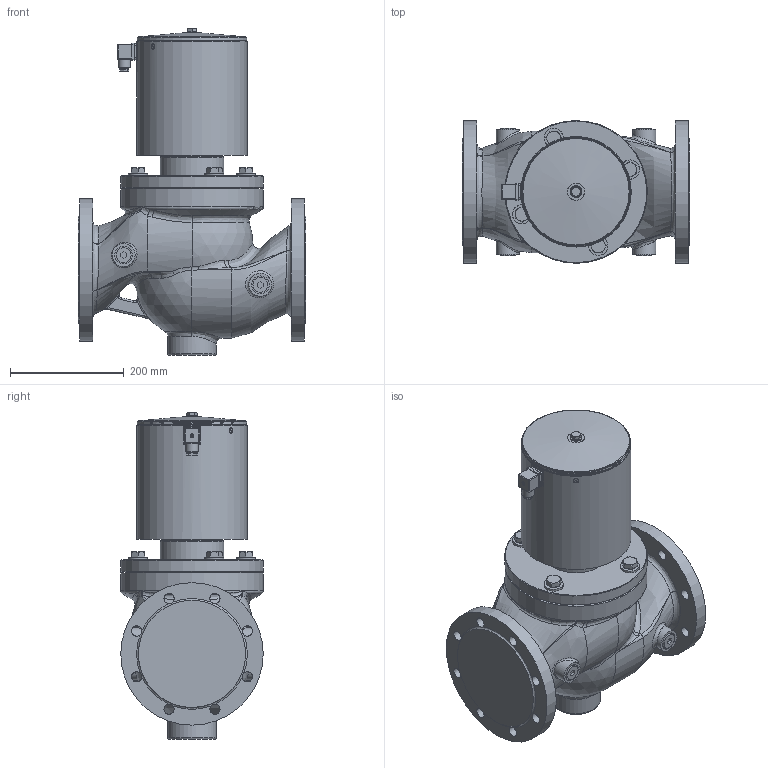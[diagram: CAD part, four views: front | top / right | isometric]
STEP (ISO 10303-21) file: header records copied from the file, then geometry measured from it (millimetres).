
FILE_DESCRIPTION((''),'2;1');
FILE_NAME('G:\CAD-Download\EVA\05-EVA\DN 125\05-EVA 125NH-4.P.stp','2010-05-10T07:55:39',('hb'),(''),'Autodesk Inventor 2008','Autodesk Inventor 2008','');
FILE_SCHEMA(('AUTOMOTIVE_DESIGN { 1 0 10303 214 1 1 1 1 }'));
Length unit declared in the file: millimetre
Products named in the file (1): Bauteil2
Bounding box: 400 x 250 x 573.41 mm (x, y, z)
Volume: 22339876.9 mm3; surface area: 805637.6 mm2
Topology: 1 solids, 1 shells, 459 faces, 1157 edges, 718 vertices
Faces by surface type: plane 208, bspline 109, cylinder 86, cone 41, torus 9, sphere 6
Full cylindrical faces by diameter (mm): 5.5 x1, 6.4 x1, 6.9 x1, 14 x1, 14.63 x1, 16 x8, 18 x8, 21.5 x1, 22.49 x4, 26 x4, 40 x4, 85 x1, 93 x1, 111 x1, 175.8 x1, 186.5 x1, 189 x2, 193.7 x1, 250 x3
Entity records: 27147 total; most frequent: CARTESIAN_POINT 16833, ORIENTED_EDGE 2026, DIRECTION 1875, EDGE_CURVE 1013, AXIS2_PLACEMENT_3D 743, VERTEX_POINT 669, EDGE_LOOP 622, FACE_OUTER_BOUND 459
